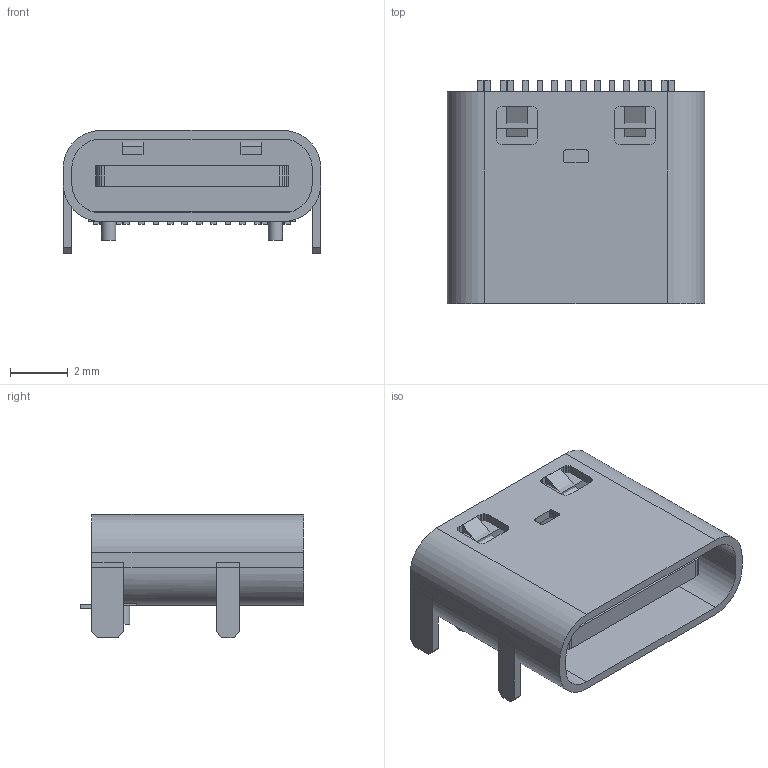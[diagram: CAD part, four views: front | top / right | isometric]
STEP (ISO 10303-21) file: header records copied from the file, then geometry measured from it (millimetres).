
FILE_DESCRIPTION(('Open CASCADE Model'),'2;1');
FILE_NAME('Open CASCADE Shape Model','2026-10-15T18:29:59',('Author'),( 'Open CASCADE'),'Open CASCADE STEP processor 7.9','Open CASCADE 7.9' ,'Unknown');
FILE_SCHEMA(('AUTOMOTIVE_DESIGN { 1 0 10303 214 1 1 1 1 }'));
Length unit declared in the file: millimetre
Products named in the file (4): USB_C_Receptacle_HRO_TYPE-C-31-M-12; shell; insulator; contacts
Assembly tree (3 placements, depth 2):
  USB_C_Receptacle_HRO_TYPE-C-31-M-12
    shell
    insulator
    contacts
Bounding box: 8.94 x 7.75 x 4.27 mm (x, y, z)
Volume: 100 mm3; surface area: 527.9 mm2
Topology: 40 solids, 40 shells, 368 faces, 858 edges, 572 vertices
Faces by surface type: plane 354, cylinder 14
Full cylindrical faces by diameter (mm): 0.5 x2
Entity records: 24452 total; most frequent: CARTESIAN_POINT 3638, DIRECTION 3330, LINE 2510, VECTOR 2510, ORIENTED_EDGE 1716, PCURVE 1716, DEFINITIONAL_REPRESENTATION 1716, EDGE_CURVE 858
